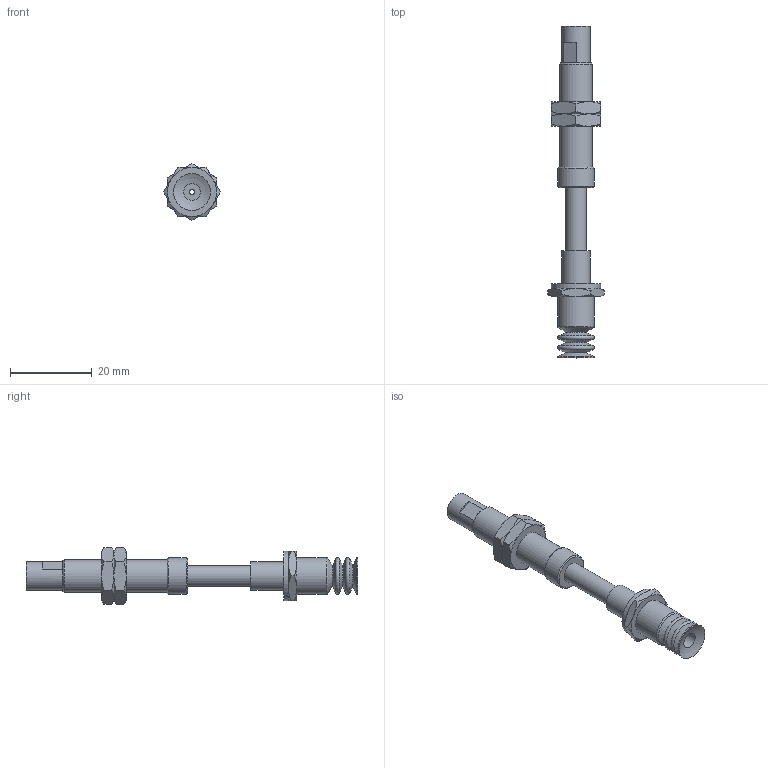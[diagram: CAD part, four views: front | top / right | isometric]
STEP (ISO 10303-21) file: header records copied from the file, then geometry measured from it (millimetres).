
FILE_DESCRIPTION(('STEP AP203'),'1');
FILE_NAME('-SPE.stp','2025-04-04T02:45:27',(' '),(' '),'Spatial InterOp 3D',' ',' ');
FILE_SCHEMA(('CONFIG_CONTROL_DESIGN'));
Length unit declared in the file: millimetre
Products named in the file (8): BNABPCTS-10-15-※-SPE; NUT; BODY; STOPPER; ZIG; BPCG-10-※; TN-PC-10-M5
Assembly tree (7 placements, depth 2):
  BNABPCTS-10-15-※-SPE
    NUT
    NUT
    BODY
    STOPPER
    ZIG
    BPCG-10-※
    TN-PC-10-M5
Bounding box: 13.86 x 81.2 x 13.86 mm (x, y, z)
Volume: 3647.3 mm3; surface area: 5200.2 mm2
Topology: 7 solids, 7 shells, 141 faces, 286 edges, 170 vertices
Faces by surface type: cone 57, plane 47, cylinder 27, torus 8, sphere 2
Full cylindrical faces by diameter (mm): 1.25 x1, 2 x1, 3.4 x1, 3.5 x1, 4 x4, 4.2 x2, 5 x7, 5.2 x1, 7 x2, 7.25 x2, 8 x1, 9 x3, 12 x1
Entity records: 3746 total; most frequent: CARTESIAN_POINT 733, DIRECTION 562, ORIENTED_EDGE 434, AXIS2_PLACEMENT_3D 268, EDGE_LOOP 224, EDGE_CURVE 217, FACE_OUTER_BOUND 178, VERTEX_POINT 159
